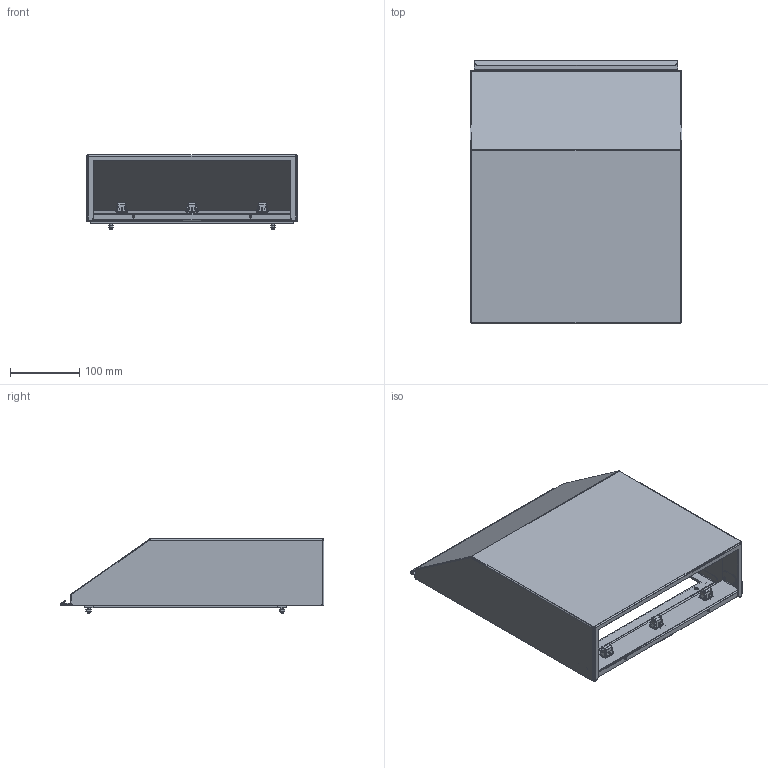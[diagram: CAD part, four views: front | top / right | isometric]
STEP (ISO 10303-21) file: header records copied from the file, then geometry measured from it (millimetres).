
FILE_DESCRIPTION (( 'STEP AP214' ), '1' );
FILE_NAME ('HH10_FilterFanShroud.STEP', '2017-04-06T13:16:57', ( '' ), ( '' ), 'SwSTEP 2.0', 'SolidWorks 2014', '' );
FILE_SCHEMA (( 'AUTOMOTIVE_DESIGN' ));
Length unit declared in the file: inch
Products named in the file (14): 89143084_Installed; 89143187; 89153847; HH10_FilterFanShroud; 89144794_89144794; 89140509; 89140512; 89140511; 89153848; 89105486; 89153849; 89153852; 89140505; 89153845
Assembly tree (25 placements, depth 4):
  HH10_FilterFanShroud
    89153845
      89153847
      89143187  x4
      89143084_Installed  x3
    89153848
      89153849
        89140505
        89153852
      89105486  x3
    89140509
      89140511  x2
      89140512  x2
    89144794_89144794  x4
Bounding box: 304.8 x 381.07 x 107.55 mm (x, y, z)
Volume: 377935.4 mm3; surface area: 604552.8 mm2
Topology: 19 solids, 25 shells, 1899 faces, 5393 edges, 3473 vertices
Faces by surface type: plane 953, cylinder 578, bspline 196, cone 172
Entity records: 30928 total; most frequent: CARTESIAN_POINT 7833, ORIENTED_EDGE 4113, DIRECTION 3868, EDGE_CURVE 2182, VERTEX_POINT 1392, LINE 1374, VECTOR 1374, AXIS2_PLACEMENT_3D 1247
